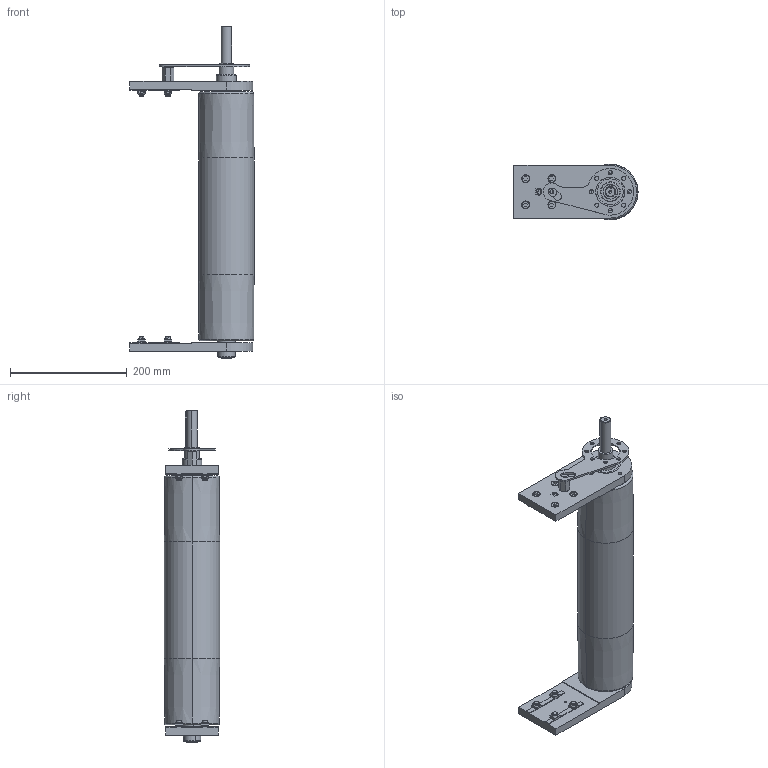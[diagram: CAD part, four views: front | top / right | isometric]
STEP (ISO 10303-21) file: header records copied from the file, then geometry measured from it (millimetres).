
FILE_DESCRIPTION (( 'STEP AP203' ), '1' );
FILE_NAME ('084.095.KDC.44.400.STEP', '2015-06-03T08:03:50', ( '' ), ( '' ), 'SwSTEP 2.0', 'SolidWorks 2012', '' );
FILE_SCHEMA (( 'CONFIG_CONTROL_DESIGN' ));
Length unit declared in the file: millimetre
Products named in the file (1): 084.095.KDC.44.400
Bounding box: 212.5 x 95 x 568.5 mm (x, y, z)
Volume: 1492557.8 mm3; surface area: 633055.8 mm2
Topology: 35 solids, 36 shells, 848 faces, 2132 edges, 1388 vertices
Faces by surface type: plane 361, cylinder 299, torus 76, cone 55, bspline 48, sphere 9
Entity records: 26693 total; most frequent: CARTESIAN_POINT 5854, DIRECTION 4446, ORIENTED_EDGE 4220, EDGE_CURVE 2110, AXIS2_PLACEMENT_3D 1721, VERTEX_POINT 1377, LINE 1004, VECTOR 1004
